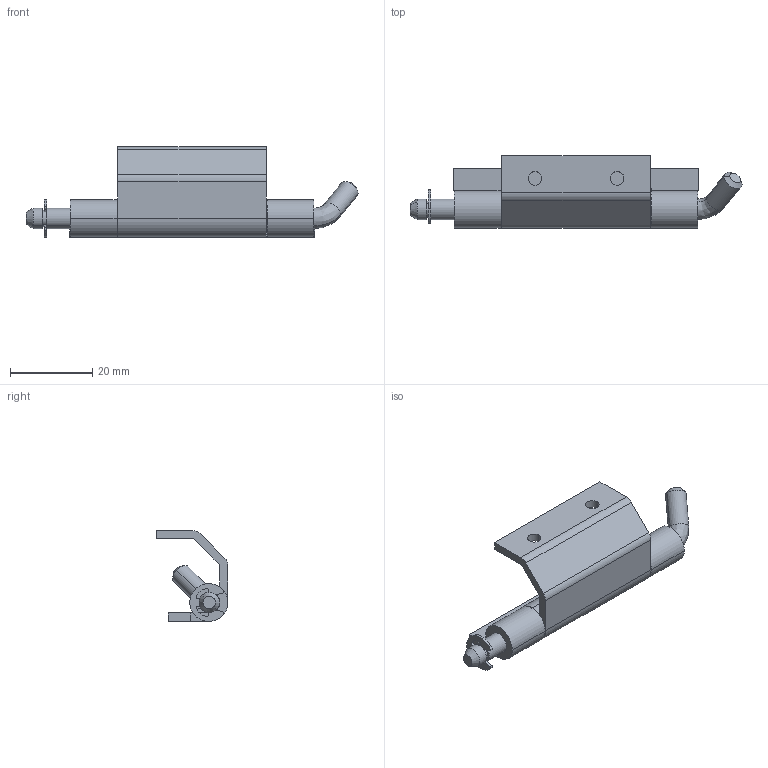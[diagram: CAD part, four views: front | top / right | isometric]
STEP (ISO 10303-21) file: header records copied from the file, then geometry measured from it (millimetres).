
FILE_DESCRIPTION (( 'STEP AP214' ), '1' );
FILE_NAME ('3.ST43.002.STEP', '2016-09-02T10:38:12', ( '' ), ( '' ), 'SwSTEP 2.0', 'SolidWorks 2015', '' );
FILE_SCHEMA (( 'AUTOMOTIVE_DESIGN' ));
Length unit declared in the file: millimetre
Products named in the file (5): 3.ST43.002.02_A; 3.ST43.002.01_A; 3.ST43.002; DIN 6799_ST - 4; 3.ST4.001.03_A
Assembly tree (4 placements, depth 2):
  3.ST43.002
    3.ST43.002.01_A
    3.ST43.002.02_A
    3.ST4.001.03_A
    DIN 6799_ST - 4
Bounding box: 80.76 x 17.5 x 22.11 mm (x, y, z)
Volume: 6720.4 mm3; surface area: 7335.3 mm2
Topology: 4 solids, 4 shells, 95 faces, 247 edges, 162 vertices
Faces by surface type: cylinder 53, plane 36, cone 4, bspline 2
Entity records: 3177 total; most frequent: DIRECTION 559, CARTESIAN_POINT 541, ORIENTED_EDGE 494, EDGE_CURVE 247, AXIS2_PLACEMENT_3D 212, VERTEX_POINT 162, LINE 135, VECTOR 135
